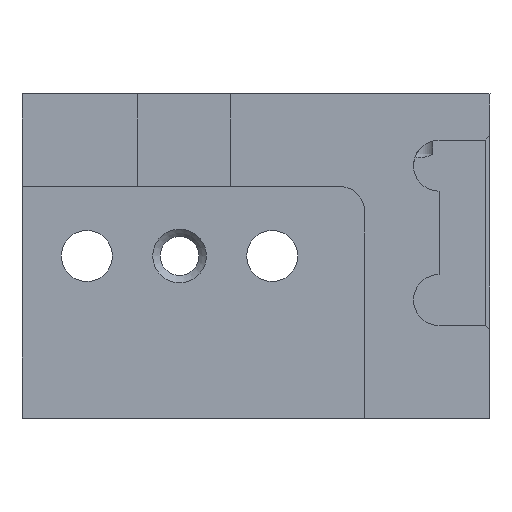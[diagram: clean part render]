
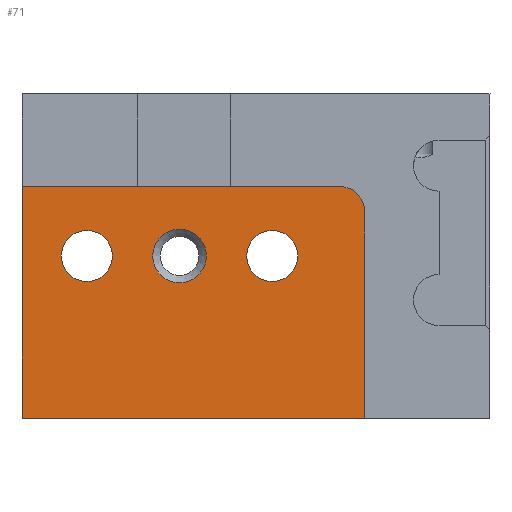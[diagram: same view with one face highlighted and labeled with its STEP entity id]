
A CAD part, front view. The second image highlights one B-rep face of the part: STEP entity #71.
In plain terms, the highlighted planar face has unit normal (0, -1, 0).
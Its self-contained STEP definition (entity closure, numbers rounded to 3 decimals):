
#71=ADVANCED_FACE('',(#458,#460,#462,#464),#466,.T.);
#458=FACE_BOUND('',#459,.T.);
#459=EDGE_LOOP('',(#802,#803,#804,#805,#806));
#460=FACE_BOUND('',#461,.T.);
#461=EDGE_LOOP('',(#807));
#462=FACE_BOUND('',#463,.T.);
#463=EDGE_LOOP('',(#808));
#464=FACE_BOUND('',#465,.T.);
#465=EDGE_LOOP('',(#809));
#466=PLANE('',#467);
#467=AXIS2_PLACEMENT_3D('',#468,#469,#470);
#468=CARTESIAN_POINT('',(0.,14.6,0.));
#469=DIRECTION('',(0.,-1.,0.));
#470=DIRECTION('',(-1.,0.,0.));
#802=ORIENTED_EDGE('',*,*,#978,.T.);
#803=ORIENTED_EDGE('',*,*,#981,.T.);
#804=ORIENTED_EDGE('',*,*,#982,.T.);
#805=ORIENTED_EDGE('',*,*,#983,.T.);
#806=ORIENTED_EDGE('',*,*,#984,.T.);
#807=ORIENTED_EDGE('',*,*,#985,.F.);
#808=ORIENTED_EDGE('',*,*,#986,.T.);
#809=ORIENTED_EDGE('',*,*,#987,.T.);
#978=EDGE_CURVE('',#1063,#1072,#1074,.F.);
#981=EDGE_CURVE('',#1072,#1079,#1080,.T.);
#982=EDGE_CURVE('',#1079,#1081,#1082,.T.);
#983=EDGE_CURVE('',#1081,#1083,#1084,.T.);
#984=EDGE_CURVE('',#1083,#1063,#1085,.F.);
#985=EDGE_CURVE('',#1086,#1086,#1087,.T.);
#986=EDGE_CURVE('',#1088,#1088,#1089,.T.);
#987=EDGE_CURVE('',#1090,#1090,#1091,.T.);
#1063=VERTEX_POINT('',#1220);
#1072=VERTEX_POINT('',#1237);
#1074=LINE('',#1241,#1242);
#1079=VERTEX_POINT('',#1254);
#1080=LINE('',#1255,#1256);
#1081=VERTEX_POINT('',#1258);
#1082=CIRCLE('',#1259,5.5);
#1083=VERTEX_POINT('',#1263);
#1084=LINE('',#1264,#1265);
#1085=LINE('',#1267,#1268);
#1086=VERTEX_POINT('',#1270);
#1087=CIRCLE('',#1271,5.788);
#1088=VERTEX_POINT('',#1275);
#1089=CIRCLE('',#1276,5.5);
#1090=VERTEX_POINT('',#1280);
#1091=CIRCLE('',#1281,5.5);
#1220=CARTESIAN_POINT('',(-101.,14.6,-70.));
#1237=CARTESIAN_POINT('',(-27.,14.6,-70.));
#1241=CARTESIAN_POINT('',(-27.,14.6,-70.));
#1242=VECTOR('',#1243,1.);
#1243=DIRECTION('',(-1.,0.,0.));
#1254=CARTESIAN_POINT('',(-27.,14.6,-25.5));
#1255=CARTESIAN_POINT('',(-27.,14.6,-70.));
#1256=VECTOR('',#1257,1.);
#1257=DIRECTION('',(0.,0.,1.));
#1258=CARTESIAN_POINT('',(-32.5,14.6,-20.));
#1259=AXIS2_PLACEMENT_3D('',#1260,#1261,#1262);
#1260=CARTESIAN_POINT('',(-32.5,14.6,-25.5));
#1261=DIRECTION('',(0.,-1.,0.));
#1262=DIRECTION('',(1.,0.,0.));
#1263=CARTESIAN_POINT('',(-101.,14.6,-20.));
#1264=CARTESIAN_POINT('',(-32.5,14.6,-20.));
#1265=VECTOR('',#1266,1.);
#1266=DIRECTION('',(-1.,0.,0.));
#1267=CARTESIAN_POINT('',(-101.,14.6,-70.));
#1268=VECTOR('',#1269,1.);
#1269=DIRECTION('',(0.,0.,1.));
#1270=CARTESIAN_POINT('',(-72.788,14.6,-35.));
#1271=AXIS2_PLACEMENT_3D('',#1272,#1273,#1274);
#1272=CARTESIAN_POINT('',(-67.,14.6,-35.));
#1273=DIRECTION('',(0.,-1.,0.));
#1274=DIRECTION('',(-1.,0.,0.));
#1275=CARTESIAN_POINT('',(-81.5,14.6,-35.));
#1276=AXIS2_PLACEMENT_3D('',#1277,#1278,#1279);
#1277=CARTESIAN_POINT('',(-87.,14.6,-35.));
#1278=DIRECTION('',(0.,1.,0.));
#1279=DIRECTION('',(1.,0.,0.));
#1280=CARTESIAN_POINT('',(-41.5,14.6,-35.));
#1281=AXIS2_PLACEMENT_3D('',#1282,#1283,#1284);
#1282=CARTESIAN_POINT('',(-47.,14.6,-35.));
#1283=DIRECTION('',(0.,1.,0.));
#1284=DIRECTION('',(1.,0.,0.));
